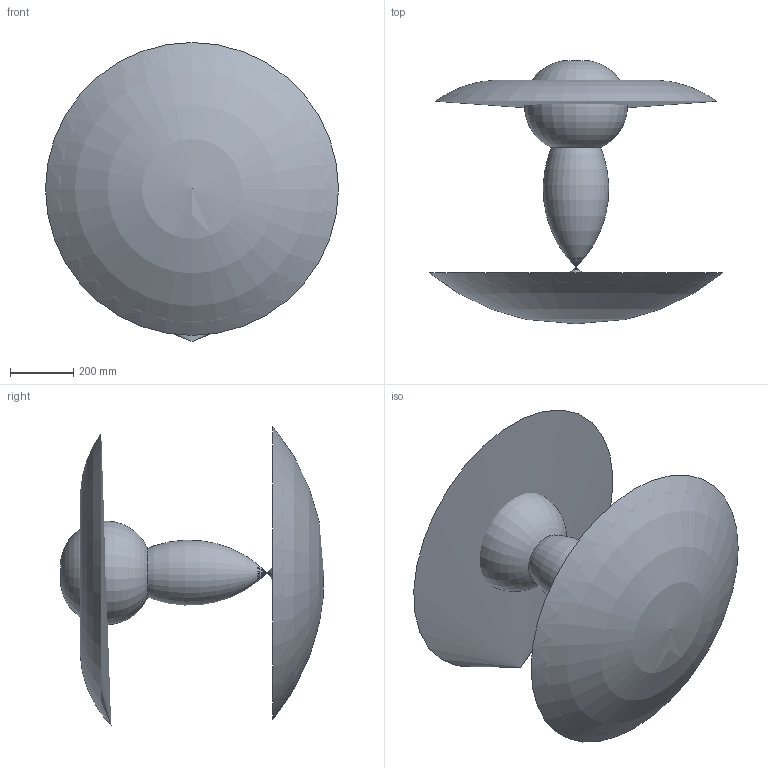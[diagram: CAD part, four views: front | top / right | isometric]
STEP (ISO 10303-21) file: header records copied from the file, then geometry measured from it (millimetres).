
FILE_DESCRIPTION (( 'STEP AP203' ), '1' );
FILE_NAME ('IRB1200GEN2_7kg-710_BTM_OC_00_Working-space.STEP', '2025-06-16T03:04:47', ( '' ), ( '' ), 'SwSTEP 2.0', 'SolidWorks 2022', '' );
FILE_SCHEMA (( 'CONFIG_CONTROL_DESIGN' ));
Length unit declared in the file: millimetre
Products named in the file (1): IRB1200GEN2_7kg-710_BTM_OC_00_Working-space
Bounding box: 928.22 x 835.02 x 947.63 mm (x, y, z)
Volume: 154486884.6 mm3; surface area: 2894923.3 mm2
Topology: 2 solids, 2 shells, 7 faces, 16 edges, 11 vertices
Faces by surface type: torus 7
Entity records: 199 total; most frequent: DIRECTION 26, CARTESIAN_POINT 18, AXIS2_PLACEMENT_3D 13, ORIENTED_EDGE 10, FACE_OUTER_BOUND 10, EDGE_LOOP 10, PERSON_AND_ORGANIZATION 8, TOROIDAL_SURFACE 7
